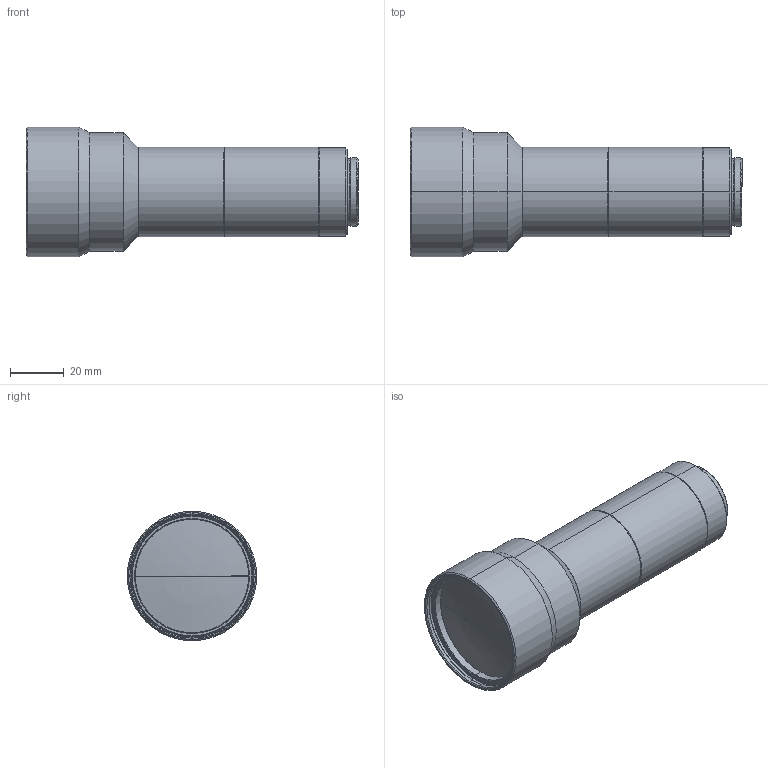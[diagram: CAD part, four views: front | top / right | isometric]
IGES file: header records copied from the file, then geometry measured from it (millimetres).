
Start section: SolidWorks IGES file using analytic representation for surfaces
Global section: file name: \\192.168.200.11\Development\02 テレセントリックレンズ\03 VS-TCM series\003 VS-TCM03-150&CO(TCH03-150)\作成中_3D\VS-TCM03-150.IGS,15HSolidWorks; native system: 2014; preprocessor: SolidWorks 2014; author: miura_vst; date: 140522.114230; units: millimetre
Bounding box: 122.97 x 48 x 48 mm (x, y, z)
Surface area: 18965.9 mm2 (no closed solid volume)
Topology: 0 solids, 0 shells, 85 faces, 1356 edges, 1355 vertices
Faces by surface type: revolution 74, bspline 11
